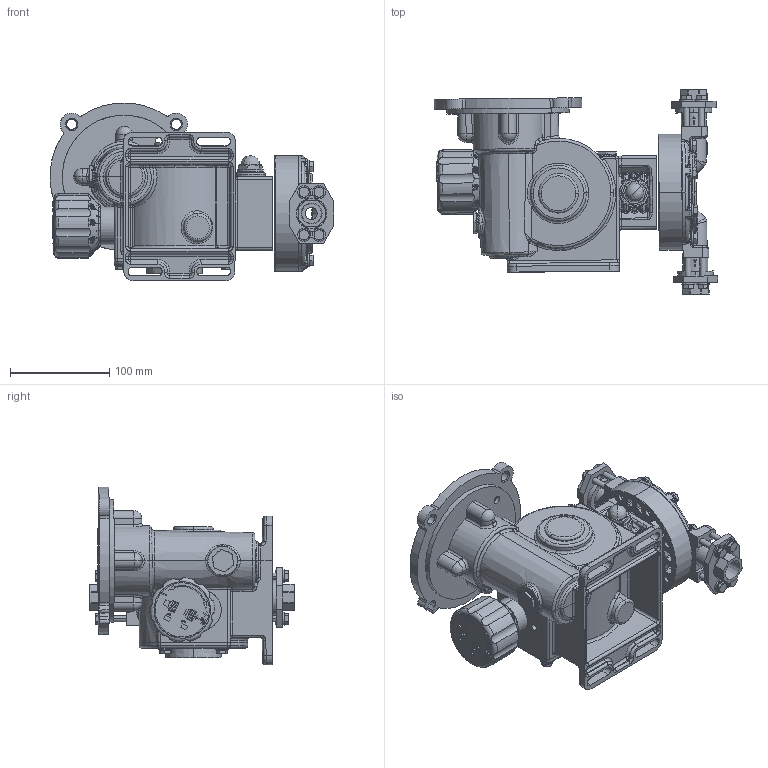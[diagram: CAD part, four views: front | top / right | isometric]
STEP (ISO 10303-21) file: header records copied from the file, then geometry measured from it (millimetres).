
FILE_DESCRIPTION (( 'STEP AP203' ), '1' );
FILE_NAME ('DM2DYAC.STEP', '2025-03-17T18:27:58', ( '' ), ( '' ), 'SwSTEP 2.0', 'SolidWorks 2023', '' );
FILE_SCHEMA (( 'CONFIG_CONTROL_DESIGN' ));
Products named in the file (1): DM2DYAC
Bounding box: 286.02 x 206.32 x 179.33 mm (x, y, z)
Surface area: 305437.5 mm2 (no closed solid volume)
Topology: 0 solids, 263 shells, 2312 faces, 11591 edges, 9336 vertices
Faces by surface type: plane 787, cylinder 647, bspline 411, cone 291, torus 115, sphere 61
Entity records: 152745 total; most frequent: CARTESIAN_POINT 70554, ORIENTED_EDGE 15884, DIRECTION 14151, EDGE_CURVE 11535, VERTEX_POINT 9329, LINE 5177, VECTOR 5177, AXIS2_PLACEMENT_3D 4487
